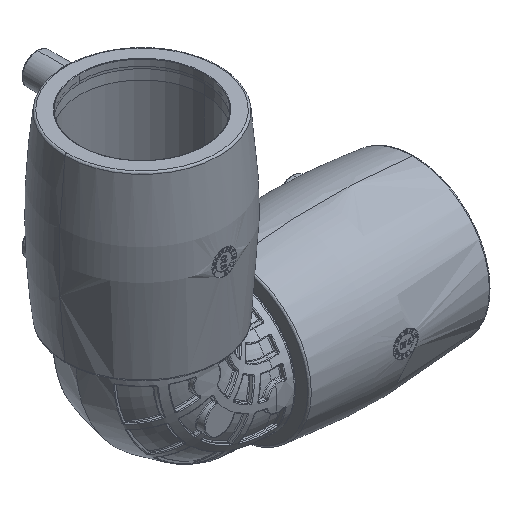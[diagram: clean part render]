
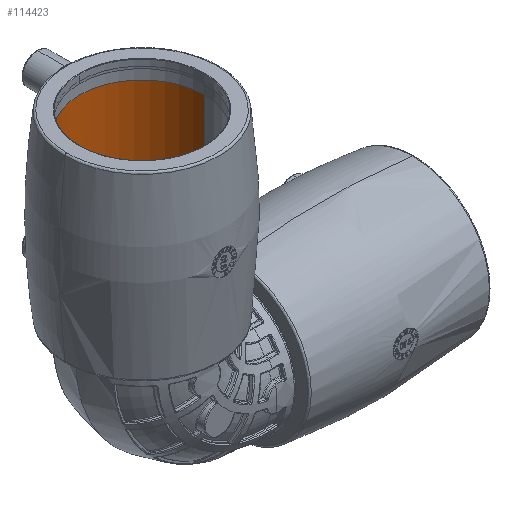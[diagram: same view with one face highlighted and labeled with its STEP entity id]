
A CAD part, isometric view. The second image highlights one B-rep face of the part: STEP entity #114423.
In plain terms, the highlighted cylindrical face has radius 31.95 mm (diameter 63.9 mm), a partial arc.
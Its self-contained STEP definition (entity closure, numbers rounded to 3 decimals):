
#2875 = FACE_BOUND ( 'NONE', #66226, .T. ) ;
#4620 = DIRECTION ( 'NONE',  ( 0., 0., -1. ) ) ;
#8666 = EDGE_LOOP ( 'NONE', ( #23994, #65890, #175275, #35415, #185219 ) ) ;
#8705 = CARTESIAN_POINT ( 'NONE',  ( 0.147, 31.95, 87.077 ) ) ;
#9411 = CARTESIAN_POINT ( 'NONE',  ( 0.772, 31.941, 87.703 ) ) ;
#12279 = CARTESIAN_POINT ( 'NONE',  ( 1.764, 31.901, 86.408 ) ) ;
#13315 = ORIENTED_EDGE ( 'NONE', *, *, #148277, .T. ) ;
#13682 = CARTESIAN_POINT ( 'NONE',  ( 1.701, 31.905, 86.314 ) ) ;
#14614 = LINE ( 'NONE', #157711, #175719 ) ;
#15106 = CARTESIAN_POINT ( 'NONE',  ( 1.116, 31.931, 87.725 ) ) ;
#19287 = VERTEX_POINT ( 'NONE', #195127 ) ;
#22025 = DIRECTION ( 'NONE',  ( 0., 1., 0. ) ) ;
#23994 = ORIENTED_EDGE ( 'NONE', *, *, #166813, .F. ) ;
#24750 = CARTESIAN_POINT ( 'NONE',  ( 0.463, 31.947, 86.149 ) ) ;
#25461 = CARTESIAN_POINT ( 'NONE',  ( 0.463, 31.947, 87.551 ) ) ;
#30343 = AXIS2_PLACEMENT_3D ( 'NONE', #35132, #119383, #202153 ) ;
#30447 = CARTESIAN_POINT ( 'NONE',  ( 1.7, 31.905, 87.387 ) ) ;
#32241 = CARTESIAN_POINT ( 'NONE',  ( 0., 31.95, 83.7 ) ) ;
#33519 = AXIS2_PLACEMENT_3D ( 'NONE', #140006, #40599, #107437 ) ;
#35132 = CARTESIAN_POINT ( 'NONE',  ( 0., 0., 83.7 ) ) ;
#35415 = ORIENTED_EDGE ( 'NONE', *, *, #121635, .T. ) ;
#35695 = DIRECTION ( 'NONE',  ( 0., 0., 1. ) ) ;
#35820 = CARTESIAN_POINT ( 'NONE',  ( 0., 0., 83.7 ) ) ;
#40599 = DIRECTION ( 'NONE',  ( 0., 0., -1. ) ) ;
#42067 = CARTESIAN_POINT ( 'NONE',  ( 1., 31.934, 85.975 ) ) ;
#45635 = CARTESIAN_POINT ( 'NONE',  ( 1.227, 31.927, 87.703 ) ) ;
#47057 = CARTESIAN_POINT ( 'NONE',  ( 1.442, 31.918, 87.614 ) ) ;
#47074 = CIRCLE ( 'NONE', #33519, 31.95 ) ;
#49503 = CYLINDRICAL_SURFACE ( 'NONE', #30343, 31.95 ) ;
#53777 = LINE ( 'NONE', #119951, #214838 ) ;
#57578 = ORIENTED_EDGE ( 'NONE', *, *, #185846, .T. ) ;
#57706 = CARTESIAN_POINT ( 'NONE',  ( 1., 31.934, 85.975 ) ) ;
#58046 = CARTESIAN_POINT ( 'NONE',  ( 0.299, 31.949, 86.313 ) ) ;
#58787 = CARTESIAN_POINT ( 'NONE',  ( 0.884, 31.938, 85.975 ) ) ;
#60264 = CARTESIAN_POINT ( 'NONE',  ( 0.884, 31.938, 87.725 ) ) ;
#63132 = CARTESIAN_POINT ( 'NONE',  ( 1.763, 31.901, 87.293 ) ) ;
#65890 = ORIENTED_EDGE ( 'NONE', *, *, #149150, .T. ) ;
#66226 = EDGE_LOOP ( 'NONE', ( #13315, #57578 ) ) ;
#68684 = VERTEX_POINT ( 'NONE', #57706 ) ;
#74802 = CARTESIAN_POINT ( 'NONE',  ( 0.236, 31.949, 86.408 ) ) ;
#75520 = CARTESIAN_POINT ( 'NONE',  ( 0.558, 31.945, 87.614 ) ) ;
#76962 = CARTESIAN_POINT ( 'NONE',  ( 1., 31.934, 87.725 ) ) ;
#79763 = CARTESIAN_POINT ( 'NONE',  ( 1.853, 31.896, 86.623 ) ) ;
#88676 = B_SPLINE_CURVE_WITH_KNOTS ( 'NONE', 3,
 ( #42067, #58787, #108928, #126302, #24750, #58046, #74802, #207600, #190988, #108198, #8705, #142969, #124853, #25461, #75520, #9411, #60264, #76962 ),
 .UNSPECIFIED., .F., .F.,
 ( 4, 2, 2, 2, 2, 2, 2, 2, 4 ),
 ( 0., 0.125, 0.25, 0.375, 0.5, 0.625, 0.75, 0.875, 1. ),
 .UNSPECIFIED. ) ;
#89442 = VERTEX_POINT ( 'NONE', #92687 ) ;
#89454 = VERTEX_POINT ( 'NONE', #126072 ) ;
#91233 = FACE_OUTER_BOUND ( 'NONE', #8666, .T. ) ;
#92687 = CARTESIAN_POINT ( 'NONE',  ( -31.95, 0., 83.7 ) ) ;
#95719 = CARTESIAN_POINT ( 'NONE',  ( 1.228, 31.927, 85.997 ) ) ;
#96449 = CARTESIAN_POINT ( 'NONE',  ( 1., 31.934, 85.975 ) ) ;
#97163 = CARTESIAN_POINT ( 'NONE',  ( 1.875, 31.895, 86.734 ) ) ;
#99594 = VERTEX_POINT ( 'NONE', #32241 ) ;
#99728 = DIRECTION ( 'NONE',  ( 0., 0., -1. ) ) ;
#100452 = CARTESIAN_POINT ( 'NONE',  ( 0., 0., 83.7 ) ) ;
#106964 = DIRECTION ( 'NONE',  ( 0., 0., 1. ) ) ;
#107437 = DIRECTION ( 'NONE',  ( 0., -1., 0. ) ) ;
#108198 = CARTESIAN_POINT ( 'NONE',  ( 0.125, 31.95, 86.966 ) ) ;
#108928 = CARTESIAN_POINT ( 'NONE',  ( 0.772, 31.941, 85.997 ) ) ;
#112482 = CARTESIAN_POINT ( 'NONE',  ( 1., 31.934, 87.725 ) ) ;
#113825 = EDGE_CURVE ( 'NONE', #99594, #89454, #179021, .T. ) ;
#114423 = ADVANCED_FACE ( 'NONE', ( #91233, #2875 ), #49503, .F. ) ;
#119383 = DIRECTION ( 'NONE',  ( 0., 0., 1. ) ) ;
#119951 = CARTESIAN_POINT ( 'NONE',  ( -31.95, 0., 83.7 ) ) ;
#121635 = EDGE_CURVE ( 'NONE', #89454, #19287, #14614, .T. ) ;
#123073 = B_SPLINE_CURVE_WITH_KNOTS ( 'NONE', 3,
 ( #112482, #15106, #45635, #47057, #196648, #30447, #63132, #195236, #179984, #97163, #79763, #12279, #13682, #163278, #195926, #95719, #147952, #96449 ),
 .UNSPECIFIED., .F., .F.,
 ( 4, 2, 2, 2, 2, 2, 2, 2, 4 ),
 ( 0., 0.125, 0.25, 0.375, 0.5, 0.625, 0.75, 0.875, 1. ),
 .UNSPECIFIED. ) ;
#124853 = CARTESIAN_POINT ( 'NONE',  ( 0.299, 31.949, 87.386 ) ) ;
#126072 = CARTESIAN_POINT ( 'NONE',  ( 31.95, 0., 83.7 ) ) ;
#126302 = CARTESIAN_POINT ( 'NONE',  ( 0.558, 31.945, 86.086 ) ) ;
#133345 = EDGE_CURVE ( 'NONE', #200621, #19287, #47074, .T. ) ;
#140006 = CARTESIAN_POINT ( 'NONE',  ( 0., 0., 119.85 ) ) ;
#142969 = CARTESIAN_POINT ( 'NONE',  ( 0.236, 31.949, 87.292 ) ) ;
#145605 = AXIS2_PLACEMENT_3D ( 'NONE', #35820, #4620, #22025 ) ;
#147952 = CARTESIAN_POINT ( 'NONE',  ( 1.116, 31.931, 85.975 ) ) ;
#148277 = EDGE_CURVE ( 'NONE', #68684, #154218, #88676, .T. ) ;
#149150 = EDGE_CURVE ( 'NONE', #89442, #99594, #208090, .T. ) ;
#154218 = VERTEX_POINT ( 'NONE', #167450 ) ;
#157711 = CARTESIAN_POINT ( 'NONE',  ( 31.95, 0., 83.7 ) ) ;
#158131 = AXIS2_PLACEMENT_3D ( 'NONE', #100452, #99728, #167935 ) ;
#163278 = CARTESIAN_POINT ( 'NONE',  ( 1.537, 31.913, 86.15 ) ) ;
#166813 = EDGE_CURVE ( 'NONE', #89442, #200621, #53777, .T. ) ;
#167450 = CARTESIAN_POINT ( 'NONE',  ( 1., 31.934, 87.725 ) ) ;
#167935 = DIRECTION ( 'NONE',  ( 0., -1., 0. ) ) ;
#168424 = CARTESIAN_POINT ( 'NONE',  ( -31.95, 0., 119.85 ) ) ;
#175275 = ORIENTED_EDGE ( 'NONE', *, *, #113825, .T. ) ;
#175719 = VECTOR ( 'NONE', #106964, 1000. ) ;
#179021 = CIRCLE ( 'NONE', #158131, 31.95 ) ;
#179984 = CARTESIAN_POINT ( 'NONE',  ( 1.875, 31.895, 86.967 ) ) ;
#185219 = ORIENTED_EDGE ( 'NONE', *, *, #133345, .F. ) ;
#185846 = EDGE_CURVE ( 'NONE', #154218, #68684, #123073, .T. ) ;
#190988 = CARTESIAN_POINT ( 'NONE',  ( 0.125, 31.95, 86.733 ) ) ;
#195127 = CARTESIAN_POINT ( 'NONE',  ( 31.95, 0., 119.85 ) ) ;
#195236 = CARTESIAN_POINT ( 'NONE',  ( 1.853, 31.896, 87.078 ) ) ;
#195926 = CARTESIAN_POINT ( 'NONE',  ( 1.443, 31.918, 86.087 ) ) ;
#196648 = CARTESIAN_POINT ( 'NONE',  ( 1.536, 31.913, 87.551 ) ) ;
#200621 = VERTEX_POINT ( 'NONE', #168424 ) ;
#202153 = DIRECTION ( 'NONE',  ( 1., 0., 0. ) ) ;
#207600 = CARTESIAN_POINT ( 'NONE',  ( 0.147, 31.95, 86.622 ) ) ;
#208090 = CIRCLE ( 'NONE', #145605, 31.95 ) ;
#214838 = VECTOR ( 'NONE', #35695, 1000. ) ;
